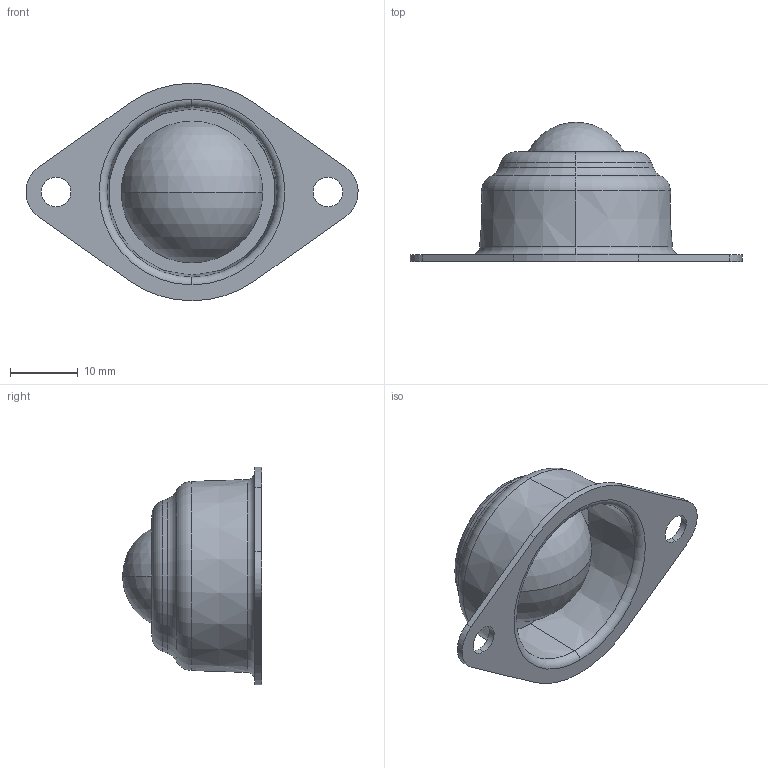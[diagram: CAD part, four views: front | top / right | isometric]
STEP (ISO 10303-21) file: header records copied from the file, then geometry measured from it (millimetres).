
FILE_DESCRIPTION (( 'STEP AP203' ), '1' );
FILE_NAME ('535052 assembly.STEP', '2016-09-06T13:32:31', ( '' ), ( '' ), 'SwSTEP 2.0', 'SolidWorks 2014', '' );
FILE_SCHEMA (( 'CONFIG_CONTROL_DESIGN' ));
Length unit declared in the file: inch
Products named in the file (3): 535052 housing; 535052 ball; 535052 assembly
Assembly tree (2 placements, depth 2):
  535052 assembly
    535052 housing
    535052 ball
Bounding box: 49.06 x 20.57 x 32.16 mm (x, y, z)
Volume: 6710 mm3; surface area: 5337.7 mm2
Topology: 2 solids, 2 shells, 39 faces, 95 edges, 60 vertices
Faces by surface type: torus 10, cylinder 9, plane 8, sphere 6, cone 6
Entity records: 1412 total; most frequent: DIRECTION 231, CARTESIAN_POINT 183, ORIENTED_EDGE 170, AXIS2_PLACEMENT_3D 102, EDGE_CURVE 85, CIRCLE 58, VERTEX_POINT 54, EDGE_LOOP 47
